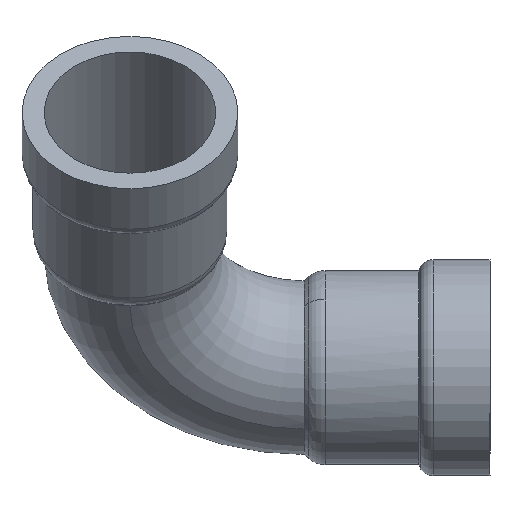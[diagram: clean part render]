
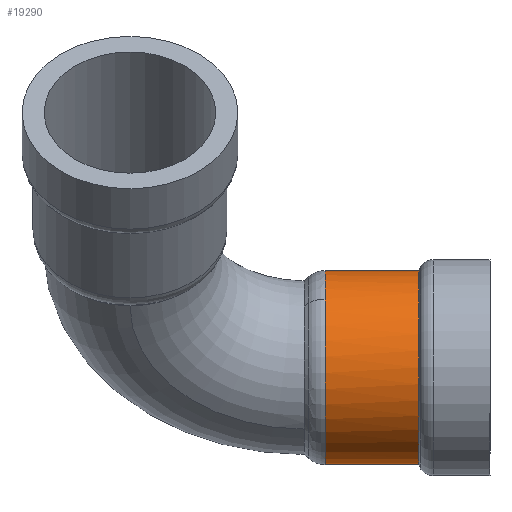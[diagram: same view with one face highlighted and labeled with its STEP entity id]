
A CAD part, top view. The second image highlights one B-rep face of the part: STEP entity #19290.
In plain terms, the highlighted cylindrical face has radius 27.85 mm (diameter 55.7 mm), a partial arc.
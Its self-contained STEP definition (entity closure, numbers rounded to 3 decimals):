
#17130=CARTESIAN_POINT('',(15.836,-50.,-29.075));
#17140=DIRECTION('',(1.,0.,0.));
#17150=DIRECTION('',(0.,-0.707,
-0.707));
#17160=AXIS2_PLACEMENT_3D('',#17130,#17140,#17150);
#17170=CIRCLE('',#17160,27.85);
#17180=CARTESIAN_POINT('',(15.836,-22.15,-29.075));
#17190=VERTEX_POINT('',#17180);
#17200=CARTESIAN_POINT('',(15.836,-30.307,
-9.382));
#17210=VERTEX_POINT('',#17200);
#17220=EDGE_CURVE('',#17190,#17210,#17170,.T.);
#18940=CARTESIAN_POINT('',(42.603,-50.,-29.075));
#18950=DIRECTION('',(1.,0.,0.));
#18960=DIRECTION('',(0.,1.,0.));
#18970=AXIS2_PLACEMENT_3D('',#18940,#18950,#18960);
#18980=CYLINDRICAL_SURFACE('',#18970,27.85);
#18990=CARTESIAN_POINT('',(42.603,-77.85,-29.075));
#19000=DIRECTION('',(1.,0.,0.));
#19010=VECTOR('',#19000,1.);
#19020=LINE('',#18990,#19010);
#19030=CARTESIAN_POINT('',(15.836,-77.85,-29.075));
#19040=VERTEX_POINT('',#19030);
#19050=CARTESIAN_POINT('',(42.715,-77.85,-29.075));
#19060=VERTEX_POINT('',#19050);
#19070=EDGE_CURVE('',#19040,#19060,#19020,.T.);
#19080=ORIENTED_EDGE('',*,*,#19070,.T.);
#19090=EDGE_CURVE('',#17210,#19040,#17170,.T.);
#19100=ORIENTED_EDGE('',*,*,#19090,.T.);
#19110=ORIENTED_EDGE('',*,*,#17220,.T.);
#19120=CARTESIAN_POINT('',(42.603,-22.15,-29.075));
#19130=DIRECTION('',(1.,0.,0.));
#19140=VECTOR('',#19130,1.);
#19150=LINE('',#19120,#19140);
#19160=CARTESIAN_POINT('',(42.715,-22.15,-29.075));
#19170=VERTEX_POINT('',#19160);
#19180=EDGE_CURVE('',#17190,#19170,#19150,.T.);
#19190=ORIENTED_EDGE('',*,*,#19180,.F.);
#19200=CARTESIAN_POINT('',(42.715,-50.,-29.075));
#19210=DIRECTION('',(-1.,0.,0.));
#19220=DIRECTION('',(0.,1.,0.));
#19230=AXIS2_PLACEMENT_3D('',#19200,#19210,#19220);
#19240=CIRCLE('',#19230,27.85);
#19250=EDGE_CURVE('',#19060,#19170,#19240,.T.);
#19260=ORIENTED_EDGE('',*,*,#19250,.T.);
#19270=EDGE_LOOP('',(#19260,#19190,#19110,#19100,#19080));
#19280=FACE_OUTER_BOUND('',#19270,.T.);
#19290=ADVANCED_FACE('',(#19280),#18980,.T.);
